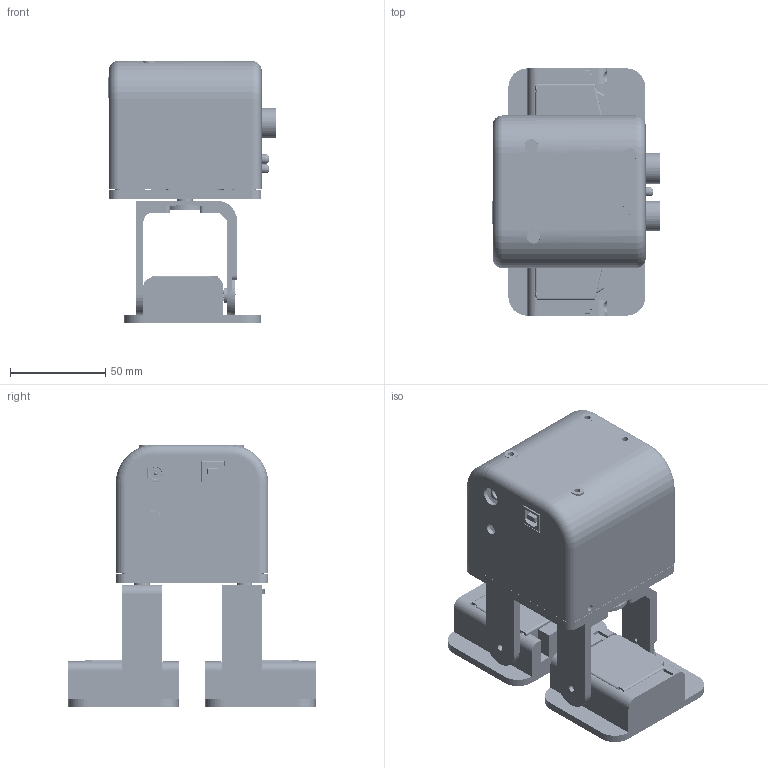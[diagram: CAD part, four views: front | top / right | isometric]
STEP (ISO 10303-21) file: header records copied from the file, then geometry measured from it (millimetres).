
FILE_DESCRIPTION(/* description */ (''),/* implementation_level */ '2;1');
FILE_NAME(/* name */ 'tito v2.step',/* time_stamp */ '2024-01-12T17:40:15+01:00',/* author */ (''),/* organization */ (''),/* preprocessor_version */ 'ST-DEVELOPER v20',/* originating_system */ 'Autodesk Translation Framework v12.14.0.127',/* authorisation */ '');
FILE_SCHEMA (('AUTOMOTIVE_DESIGN { 1 0 10303 214 3 1 1 }'));
Products named in the file (1): tito
Bounding box: 88.11 x 130 x 137.82 mm (x, y, z)
Volume: 302071.4 mm3; surface area: 168425.7 mm2
Topology: 52 solids, 52 shells, 6726 faces, 17657 edges, 11461 vertices
Faces by surface type: plane 4906, cylinder 966, bspline 591, cone 164, sphere 64, torus 35
Full cylindrical faces by diameter (mm): 1.6 x134, 2 x14, 2.083 x1, 2.5 x72, 3 x4, 3.099 x1, 3.239 x8, 3.5 x42, 5 x10, 5.782 x1, 6.1 x4, 6.35 x1, 6.4 x8, 6.5 x2, 7 x16, 8.1 x4, 9 x2, 9.9 x4, 10.1 x1, 11 x4, 12.8 x4, 16 x2, 16.5 x2, 21 x4
Entity records: 328988 total; most frequent: CARTESIAN_POINT 167401, ORIENTED_EDGE 35282, DIRECTION 29656, EDGE_CURVE 17641, LINE 12958, VECTOR 12958, VERTEX_POINT 11463, AXIS2_PLACEMENT_3D 8349
